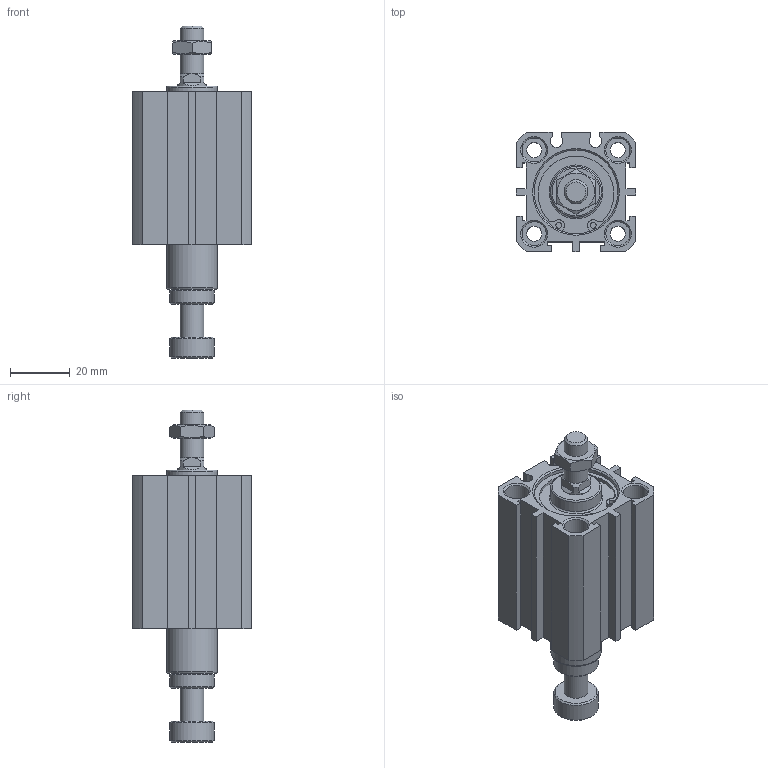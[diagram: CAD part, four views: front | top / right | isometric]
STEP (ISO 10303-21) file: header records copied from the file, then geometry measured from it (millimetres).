
FILE_DESCRIPTION((''),'2;1');
FILE_NAME('I:\3D電子目錄\氣缸\JDAR\JDAR-BS\JDAR25-BS\JDAR25x20-BS.stp','2007-05-05T11:13:59',('662F206'),(''),'Autodesk Inventor 11','Autodesk Inventor 11','');
FILE_SCHEMA(('AUTOMOTIVE_DESIGN { 1 0 10303 214 1 1 1 1 }'));
Length unit declared in the file: millimetre
Products named in the file (3): JDAR25-BS; R 形環 28
Assembly tree (3 placements, depth 2):
  JDAR25-BS
    JDAR25-BS
    R 形環 28  x2
Bounding box: 40 x 40 x 111.1 mm (x, y, z)
Volume: 71218.6 mm3; surface area: 23238.6 mm2
Topology: 3 solids, 3 shells, 175 faces, 406 edges, 263 vertices
Faces by surface type: plane 94, cylinder 50, cone 23, bspline 6, torus 2
Full cylindrical faces by diameter (mm): 1.5 x2, 1.9 x4, 5.1 x4, 8 x11, 10 x1, 15 x2, 17 x2, 28 x4, 29.4 x2
Entity records: 4479 total; most frequent: CARTESIAN_POINT 889, DIRECTION 742, ORIENTED_EDGE 630, EDGE_CURVE 315, AXIS2_PLACEMENT_3D 284, EDGE_LOOP 256, VERTEX_POINT 237, VECTOR 174
